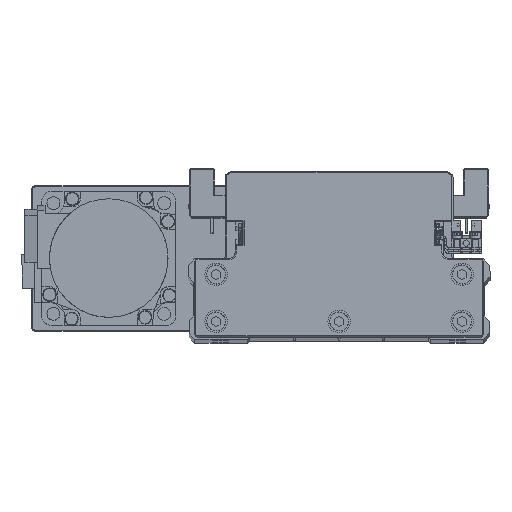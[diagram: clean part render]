
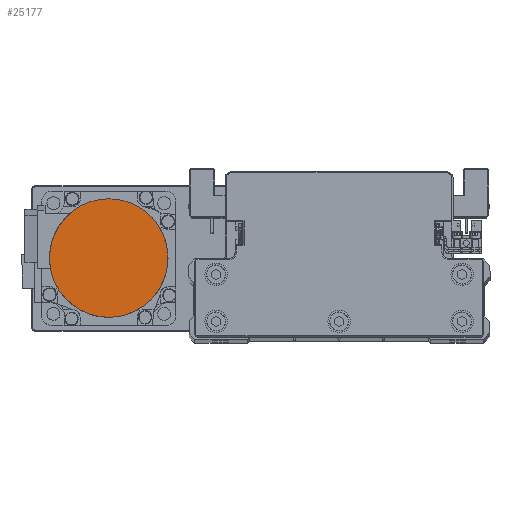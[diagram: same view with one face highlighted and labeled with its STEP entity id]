
A CAD part, top view. The second image highlights one B-rep face of the part: STEP entity #25177.
In plain terms, the highlighted planar face has unit normal (0, 0, 1) as drawn and (0, 0, -1) by its records, which use the part's own axes.
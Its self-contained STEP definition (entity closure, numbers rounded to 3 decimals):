
#971 = CARTESIAN_POINT ( 'NONE',  ( 25.652, 6.871, -109.7 ) ) ;
#1163 = CARTESIAN_POINT ( 'NONE',  ( 1.734, 26.5, -109.7 ) ) ;
#1364 = CARTESIAN_POINT ( 'NONE',  ( -25.147, 8.539, -109.7 ) ) ;
#1615 = EDGE_CURVE ( 'NONE', #29941, #30884, #25135, .T. ) ;
#1921 = EDGE_LOOP ( 'NONE', ( #33691, #16301 ) ) ;
#2815 = CARTESIAN_POINT ( 'NONE',  ( -11.744, -23.819, -109.7 ) ) ;
#3019 = CARTESIAN_POINT ( 'NONE',  ( 19.965, -17.512, -109.7 ) ) ;
#4086 = CARTESIAN_POINT ( 'NONE',  ( 26.5, 0., -109.7 ) ) ;
#4289 = CARTESIAN_POINT ( 'NONE',  ( 8.539, 25.147, -109.7 ) ) ;
#4481 = CARTESIAN_POINT ( 'NONE',  ( -21.07, 16.165, -109.7 ) ) ;
#5914 = CARTESIAN_POINT ( 'NONE',  ( -17.512, -19.965, -109.7 ) ) ;
#6119 = CARTESIAN_POINT ( 'NONE',  ( 13.28, -22.998, -109.7 ) ) ;
#7395 = CARTESIAN_POINT ( 'NONE',  ( 16.165, 21.07, -109.7 ) ) ;
#7596 = CARTESIAN_POINT ( 'NONE',  ( -16.165, 21.07, -109.7 ) ) ;
#8989 = CARTESIAN_POINT ( 'NONE',  ( 26.5, 0., -109.7 ) ) ;
#9036 = CARTESIAN_POINT ( 'NONE',  ( -22.998, -13.28, -109.7 ) ) ;
#9229 = CARTESIAN_POINT ( 'NONE',  ( 6.871, -25.652, -109.7 ) ) ;
#9438 = CARTESIAN_POINT ( 'NONE',  ( 26.5, -1.734, -109.7 ) ) ;
#10506 = CARTESIAN_POINT ( 'NONE',  ( 21.07, 16.165, -109.7 ) ) ;
#10698 = DIRECTION ( 'NONE',  ( 0., 0., 1. ) ) ;
#10702 = CARTESIAN_POINT ( 'NONE',  ( -8.539, 25.147, -109.7 ) ) ;
#10904 = CARTESIAN_POINT ( 'NONE',  ( -26.5, 0., -109.7 ) ) ;
#12141 = CARTESIAN_POINT ( 'NONE',  ( -25.652, -6.871, -109.7 ) ) ;
#12348 = CARTESIAN_POINT ( 'NONE',  ( -1.734, -26.5, -109.7 ) ) ;
#12544 = CARTESIAN_POINT ( 'NONE',  ( 25.147, -8.539, -109.7 ) ) ;
#13621 = CARTESIAN_POINT ( 'NONE',  ( 25.147, 8.539, -109.7 ) ) ;
#13801 = FACE_OUTER_BOUND ( 'NONE', #1921, .T. ) ;
#13804 = CARTESIAN_POINT ( 'NONE',  ( -1.734, 26.5, -109.7 ) ) ;
#14000 = CARTESIAN_POINT ( 'NONE',  ( -25.652, 6.871, -109.7 ) ) ;
#15240 = CARTESIAN_POINT ( 'NONE',  ( -26.5, 0., -109.7 ) ) ;
#15450 = CARTESIAN_POINT ( 'NONE',  ( -8.539, -25.147, -109.7 ) ) ;
#15658 = CARTESIAN_POINT ( 'NONE',  ( 21.07, -16.165, -109.7 ) ) ;
#16301 = ORIENTED_EDGE ( 'NONE', *, *, #36456, .F. ) ;
#16720 = CARTESIAN_POINT ( 'NONE',  ( 26.5, 1.734, -109.7 ) ) ;
#16925 = CARTESIAN_POINT ( 'NONE',  ( 6.871, 25.652, -109.7 ) ) ;
#17117 = CARTESIAN_POINT ( 'NONE',  ( -22.998, 13.28, -109.7 ) ) ;
#18561 = CARTESIAN_POINT ( 'NONE',  ( -16.165, -21.07, -109.7 ) ) ;
#18773 = CARTESIAN_POINT ( 'NONE',  ( 16.165, -21.07, -109.7 ) ) ;
#18964 = AXIS2_PLACEMENT_3D ( 'NONE', #39035, #10698, #23337 ) ;
#20042 = CARTESIAN_POINT ( 'NONE',  ( 13.28, 22.998, -109.7 ) ) ;
#20238 = CARTESIAN_POINT ( 'NONE',  ( -17.512, 19.965, -109.7 ) ) ;
#21682 = CARTESIAN_POINT ( 'NONE',  ( -21.07, -16.165, -109.7 ) ) ;
#21875 = CARTESIAN_POINT ( 'NONE',  ( 8.539, -25.147, -109.7 ) ) ;
#22082 = CARTESIAN_POINT ( 'NONE',  ( 26.5, 0., -109.7 ) ) ;
#23142 = CARTESIAN_POINT ( 'NONE',  ( 19.965, 17.512, -109.7 ) ) ;
#23337 = DIRECTION ( 'NONE',  ( 1., 0., 0. ) ) ;
#23342 = CARTESIAN_POINT ( 'NONE',  ( -11.744, 23.819, -109.7 ) ) ;
#24784 = CARTESIAN_POINT ( 'NONE',  ( -25.147, -8.539, -109.7 ) ) ;
#24987 = CARTESIAN_POINT ( 'NONE',  ( 1.734, -26.5, -109.7 ) ) ;
#25135 = B_SPLINE_CURVE_WITH_KNOTS ( 'NONE', 3,
 ( #4086, #16720, #29358, #971, #13621, #26255, #38852, #10506, #23142, #35749, #7395, #20042, #32649, #4289, #16925, #29554, #1163, #13804, #26445, #39039, #10702, #23342, #35953, #7596, #20238, #32844, #4481, #17117, #29746, #1364, #14000, #26643, #39244, #10904 ),
 .UNSPECIFIED., .F., .F.,
 ( 4, 2, 2, 2, 2, 2, 2, 2, 2, 2, 2, 2, 2, 2, 2, 2, 4 ),
 ( 0., 0.062, 0.125, 0.187, 0.25, 0.312, 0.375, 0.437, 0.5, 0.562, 0.625, 0.687, 0.75, 0.813, 0.875, 0.938, 1. ),
 .UNSPECIFIED. ) ;
#25177 = ADVANCED_FACE ( 'NONE', ( #13801 ), #26440, .F. ) ;
#25186 = CARTESIAN_POINT ( 'NONE',  ( 25.652, -6.871, -109.7 ) ) ;
#26255 = CARTESIAN_POINT ( 'NONE',  ( 23.819, 11.744, -109.7 ) ) ;
#26440 = PLANE ( 'NONE',  #18964 ) ;
#26445 = CARTESIAN_POINT ( 'NONE',  ( -3.469, 26.329, -109.7 ) ) ;
#26643 = CARTESIAN_POINT ( 'NONE',  ( -26.329, 3.469, -109.7 ) ) ;
#27876 = CARTESIAN_POINT ( 'NONE',  ( -26.5, -1.734, -109.7 ) ) ;
#28090 = CARTESIAN_POINT ( 'NONE',  ( -6.871, -25.652, -109.7 ) ) ;
#28293 = CARTESIAN_POINT ( 'NONE',  ( 22.998, -13.28, -109.7 ) ) ;
#28354 = CARTESIAN_POINT ( 'NONE',  ( -26.5, 0., -109.7 ) ) ;
#29358 = CARTESIAN_POINT ( 'NONE',  ( 26.329, 3.469, -109.7 ) ) ;
#29554 = CARTESIAN_POINT ( 'NONE',  ( 3.469, 26.329, -109.7 ) ) ;
#29746 = CARTESIAN_POINT ( 'NONE',  ( -23.819, 11.744, -109.7 ) ) ;
#29941 = VERTEX_POINT ( 'NONE', #8989 ) ;
#30884 = VERTEX_POINT ( 'NONE', #28354 ) ;
#31182 = CARTESIAN_POINT ( 'NONE',  ( -13.28, -22.998, -109.7 ) ) ;
#31390 = CARTESIAN_POINT ( 'NONE',  ( 17.512, -19.965, -109.7 ) ) ;
#32649 = CARTESIAN_POINT ( 'NONE',  ( 11.744, 23.819, -109.7 ) ) ;
#32844 = CARTESIAN_POINT ( 'NONE',  ( -19.965, 17.512, -109.7 ) ) ;
#33691 = ORIENTED_EDGE ( 'NONE', *, *, #1615, .F. ) ;
#34277 = CARTESIAN_POINT ( 'NONE',  ( -19.965, -17.512, -109.7 ) ) ;
#34479 = CARTESIAN_POINT ( 'NONE',  ( 11.744, -23.819, -109.7 ) ) ;
#35749 = CARTESIAN_POINT ( 'NONE',  ( 17.512, 19.965, -109.7 ) ) ;
#35953 = CARTESIAN_POINT ( 'NONE',  ( -13.28, 22.998, -109.7 ) ) ;
#36456 = EDGE_CURVE ( 'NONE', #30884, #29941, #37549, .T. ) ;
#37384 = CARTESIAN_POINT ( 'NONE',  ( -23.819, -11.744, -109.7 ) ) ;
#37549 = B_SPLINE_CURVE_WITH_KNOTS ( 'NONE', 3,
 ( #15240, #27876, #40490, #12141, #24784, #37384, #9036, #21682, #34277, #5914, #18561, #31182, #2815, #15450, #28090, #40698, #12348, #24987, #37587, #9229, #21875, #34479, #6119, #18773, #31390, #3019, #15658, #28293, #40901, #12544, #25186, #37795, #9438, #22082 ),
 .UNSPECIFIED., .F., .F.,
 ( 4, 2, 2, 2, 2, 2, 2, 2, 2, 2, 2, 2, 2, 2, 2, 2, 4 ),
 ( 0., 0.063, 0.125, 0.188, 0.25, 0.312, 0.375, 0.437, 0.5, 0.562, 0.625, 0.687, 0.75, 0.813, 0.875, 0.938, 1. ),
 .UNSPECIFIED. ) ;
#37587 = CARTESIAN_POINT ( 'NONE',  ( 3.469, -26.329, -109.7 ) ) ;
#37795 = CARTESIAN_POINT ( 'NONE',  ( 26.329, -3.469, -109.7 ) ) ;
#38852 = CARTESIAN_POINT ( 'NONE',  ( 22.998, 13.28, -109.7 ) ) ;
#39035 = CARTESIAN_POINT ( 'NONE',  ( 0., 0., -109.7 ) ) ;
#39039 = CARTESIAN_POINT ( 'NONE',  ( -6.871, 25.652, -109.7 ) ) ;
#39244 = CARTESIAN_POINT ( 'NONE',  ( -26.5, 1.734, -109.7 ) ) ;
#40490 = CARTESIAN_POINT ( 'NONE',  ( -26.329, -3.469, -109.7 ) ) ;
#40698 = CARTESIAN_POINT ( 'NONE',  ( -3.469, -26.329, -109.7 ) ) ;
#40901 = CARTESIAN_POINT ( 'NONE',  ( 23.819, -11.744, -109.7 ) ) ;
